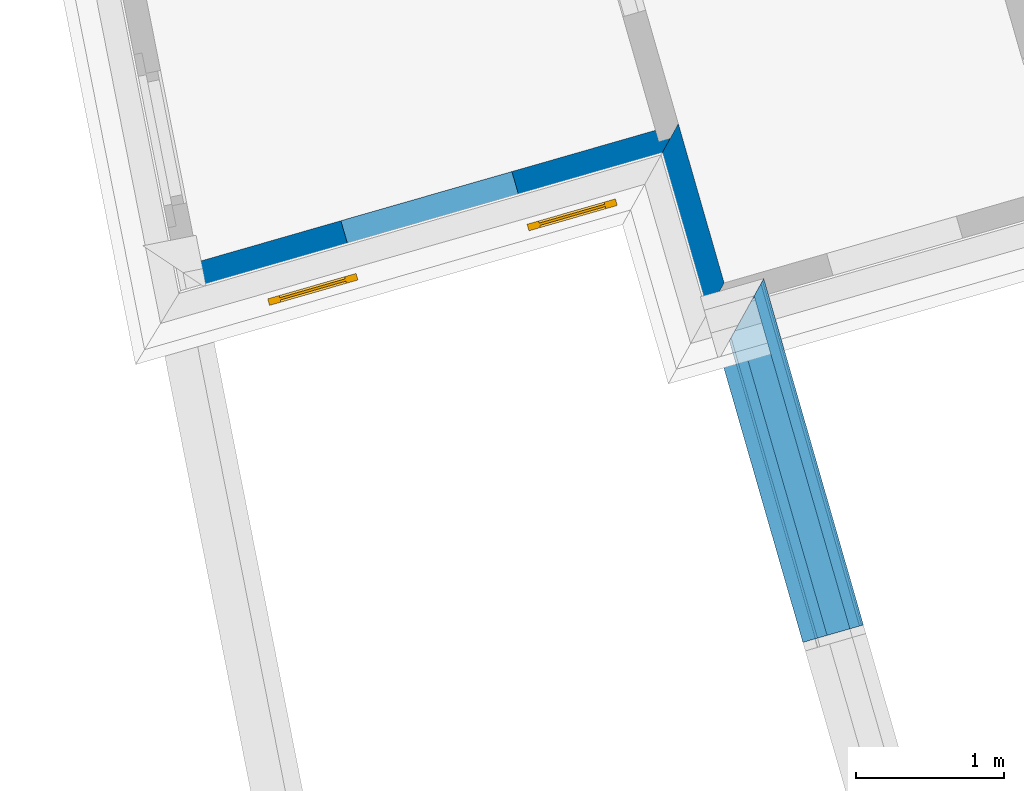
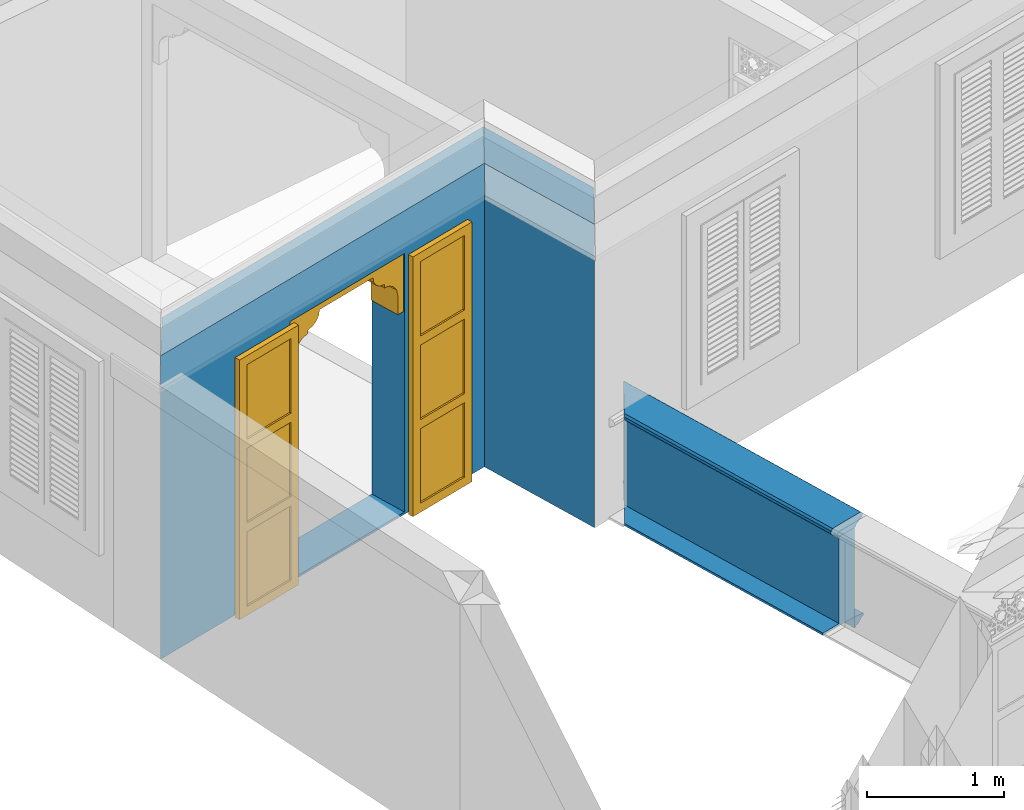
# One storey, part 14 of 22: 5 walls, 1 door, 1 opening.
"""IFC4 building model written with IfcOpenShell, lengths in metres."""

from ifc_helpers import new_model, si_unit, frame, origin, origin_with_axes, place, context, subcontext, project, spatial, polyline, outline, extrude, clip, halfspace, faceted_brep, source, transform, mapped, material, layer, layer_set, layer_usage, material_profile, profile_set, profile_usage, type_object, type_shapes, element, fill, save


model = new_model("IFC4")

# Units and contexts
model_context = context("Model", 3, world=origin_with_axes())
body_context = subcontext(model_context, "Body", "Model", "MODEL_VIEW")
ifc_project = project(units=[si_unit("PLANEANGLEUNIT", "RADIAN"), si_unit("MASSUNIT", "GRAM", prefix="KILO"), si_unit("FORCEUNIT", "NEWTON", prefix="KILO"), si_unit("LENGTHUNIT", "METRE"), si_unit("AREAUNIT", "SQUARE_METRE"), si_unit("VOLUMEUNIT", "CUBIC_METRE")], contexts=[model_context, model_context])

# Site, building, storey
site_placement = place(None, origin_with_axes())
site = spatial("IfcSite", under=ifc_project, at=site_placement, Name="Site plot-9", CompositionType="ELEMENT")
building_placement = place(None, origin_with_axes())
building = spatial("IfcBuilding", under=site, at=building_placement, Name="Building plot-9", CompositionType="ELEMENT")
storey_placement = place(None, frame((0.0, 0.0, 2.85), z_axis=(0.0, 0.0, 1.0), x_axis=(1.0, 0.0, 0.0)))
storey = spatial("IfcBuildingStorey", under=building, at=storey_placement, Name="plot-9 1", CompositionType="ELEMENT", Elevation=2.85)

# Wall, opening, door
ifc_material = material(Name="Masonry")
ifc_layer = layer(ifc_material, 0.33, ventilated=False)
ifc_layer_set = layer_set([ifc_layer], Name="exterior_0.08_0.25")
ifc_layer_usage = layer_usage(ifc_layer_set, "AXIS2", "POSITIVE", -0.25)
wall_type_1 = type_object("IfcWallType", Name="exterior_0.08_0.25", PredefinedType="SOLIDWALL", material=ifc_layer_set)
wall_1_placement = place(storey_placement, frame((-22.3179113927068, 3.82510829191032, 0.0), z_axis=(0.0, 0.0, 1.0), x_axis=(0.96108624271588, 0.276248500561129, 0.0)))
wall_1 = element("IfcWall", 1, at=wall_1_placement, inside=storey, type_object=wall_type_1, material=ifc_layer_usage, Name="exterior", context=body_context, shape_type="SweptSolid", body=[
    extrude(outline(polyline([(0.0871046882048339, 0.0800000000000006), (-0.272202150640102, -0.249999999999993), (3.12539536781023, -0.25), (3.45530111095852, 0.0799999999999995), (0.0871046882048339, 0.0800000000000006)])), origin_with_axes(), (0.0, 0.0, 1.0), 2.7),
])
opening_placement = place(wall_1_placement, frame((1.08766198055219, 0.0, 0.02)))
opening = element("IfcOpeningElement", 2, at=opening_placement, cuts=wall_1, Name="My Opening", ObjectType="Opening", context=body_context, shape_type="SweptSolid", body=[
    extrude(outline(polyline([(0.0, -0.27), (1.2, -0.27), (1.2, 1.1), (-1.33226762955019e-15, 1.1), (0.0, -0.27)])), origin_with_axes(), (0.0, 0.0, 1.0), 2.3),
])
door_type = type_object("IfcDoorType", Name="arch-1200x2300", OperationType="SINGLE_SWING_LEFT", PredefinedType="NOTDEFINED")
shared_shape = source(origin(), body_context, "Body", "Brep", [
    faceted_brep([(-0.08, -0.02, 0.08), (-0.08, -0.02, 0.0), (-0.54, -0.02, 0.0), (-0.54, -0.02, 0.08), (-0.62, -0.02, 0.0), (-0.62, -0.02, 0.08), (-0.54, -0.035, 0.08), (-0.08, -0.035, 0.08), (0.0, -0.02, 0.08), (0.0, -0.02, 0.0), (-0.08, -0.066, 0.0), (-0.54, -0.066, 0.0), (-0.62, -0.066, 0.0), (-0.62, -0.066, 0.08), (-0.54, -0.02, 0.743333), (-0.62, -0.02, 0.743333), (-0.54, -0.035, 0.743333), (-0.08, -0.035, 0.743333), (-0.08, -0.02, 0.743333), (0.0, -0.02, 0.743333), (0.0, -0.066, 0.08), (0.0, -0.066, 0.0), (-0.54, -0.066, 0.08), (-0.08, -0.066, 0.08), (-0.62, -0.066, 0.743333), (-0.54, -0.02, 0.823333), (-0.62, -0.02, 0.823333), (0.0, -0.066, 0.743333), (0.0, -0.02, 0.823333), (-0.08, -0.02, 0.823333), (-0.08, -0.051, 0.08), (-0.54, -0.051, 0.08), (-0.54, -0.066, 0.743333), (-0.62, -0.066, 0.823333), (-0.54, -0.02, 1.486667), (-0.62, -0.02, 1.486667), (0.0, -0.066, 0.823333), (-0.08, -0.066, 0.743333), (0.0, -0.02, 1.486667), (-0.08, -0.02, 1.486667), (-0.08, -0.051, 0.743333), (-0.54, -0.051, 0.743333), (-0.54, -0.066, 0.823333), (-0.62, -0.066, 1.486667), (-0.54, -0.035, 0.823333), (-0.08, -0.035, 0.823333), (-0.54, -0.035, 1.486667), (-0.54, -0.02, 1.566667), (-0.62, -0.02, 1.566667), (0.0, -0.066, 1.486667), (-0.08, -0.066, 0.823333), (-0.08, -0.035, 1.486667), (0.0, -0.02, 1.566667), (-0.08, -0.02, 1.566667), (-0.54, -0.066, 1.486667), (-0.62, -0.066, 1.566667), (-0.54, -0.02, 2.23), (-0.62, -0.02, 2.23), (0.0, -0.066, 1.566667), (-0.08, -0.066, 1.486667), (0.0, -0.02, 2.23), (-0.08, -0.02, 2.23), (-0.08, -0.051, 0.823333), (-0.54, -0.051, 0.823333), (-0.54, -0.051, 1.486667), (-0.54, -0.066, 1.566667), (-0.62, -0.066, 2.23), (-0.54, -0.035, 1.566667), (-0.08, -0.035, 1.566667), (-0.54, -0.035, 2.23), (-0.54, -0.02, 2.31), (-0.62, -0.02, 2.31), (0.0, -0.066, 2.23), (-0.08, -0.066, 1.566667), (-0.08, -0.051, 1.486667), (-0.08, -0.035, 2.23), (0.0, -0.02, 2.31), (-0.08, -0.02, 2.31), (-0.54, -0.066, 2.23), (-0.62, -0.066, 2.31), (-0.54, -0.066, 2.31), (0.0, -0.066, 2.31), (-0.08, -0.066, 2.23), (-0.08, -0.066, 2.31), (-0.08, -0.051, 1.566667), (-0.54, -0.051, 1.566667), (-0.54, -0.051, 2.23), (-0.08, -0.051, 2.23), (1.74, -0.02, 0.08), (1.74, -0.02, 0.0), (1.28, -0.02, 0.0), (1.28, -0.02, 0.08), (1.82, -0.02, 0.08), (1.82, -0.02, 0.0), (1.28, -0.035, 0.08), (1.74, -0.035, 0.08), (1.2, -0.02, 0.0), (1.2, -0.02, 0.08), (1.74, -0.066, 0.0), (1.28, -0.066, 0.0), (1.82, -0.066, 0.08), (1.82, -0.066, 0.0), (1.82, -0.02, 0.743333), (1.74, -0.02, 0.743333), (1.74, -0.035, 0.743333), (1.28, -0.035, 0.743333), (1.28, -0.02, 0.743333), (1.2, -0.02, 0.743333), (1.2, -0.066, 0.0), (1.2, -0.066, 0.08), (1.28, -0.066, 0.08), (1.74, -0.066, 0.08), (1.82, -0.066, 0.743333), (1.82, -0.02, 0.823333), (1.74, -0.02, 0.823333), (1.2, -0.066, 0.743333), (1.28, -0.02, 0.823333), (1.2, -0.02, 0.823333), (1.74, -0.051, 0.08), (1.28, -0.051, 0.08), (1.74, -0.066, 0.743333), (1.82, -0.066, 0.823333), (1.82, -0.02, 1.486667), (1.74, -0.02, 1.486667), (1.2, -0.066, 0.823333), (1.28, -0.066, 0.743333), (1.28, -0.02, 1.486667), (1.2, -0.02, 1.486667), (1.28, -0.051, 0.743333), (1.74, -0.051, 0.743333), (1.74, -0.066, 0.823333), (1.82, -0.066, 1.486667), (1.28, -0.035, 0.823333), (1.74, -0.035, 0.823333), (1.74, -0.035, 1.486667), (1.82, -0.02, 1.566667), (1.74, -0.02, 1.566667), (1.2, -0.066, 1.486667), (1.28, -0.066, 0.823333), (1.28, -0.035, 1.486667), (1.28, -0.02, 1.566667), (1.2, -0.02, 1.566667), (1.74, -0.066, 1.486667), (1.82, -0.066, 1.566667), (1.82, -0.02, 2.23), (1.74, -0.02, 2.23), (1.2, -0.066, 1.566667), (1.28, -0.066, 1.486667), (1.28, -0.02, 2.23), (1.2, -0.02, 2.23), (1.74, -0.051, 0.823333), (1.28, -0.051, 0.823333), (1.74, -0.051, 1.486667), (1.74, -0.066, 1.566667), (1.82, -0.066, 2.23), (1.28, -0.035, 1.566667), (1.74, -0.035, 1.566667), (1.74, -0.035, 2.23), (1.82, -0.02, 2.31), (1.74, -0.02, 2.31), (1.2, -0.066, 2.23), (1.28, -0.066, 1.566667), (1.28, -0.051, 1.486667), (1.28, -0.035, 2.23), (1.28, -0.02, 2.31), (1.2, -0.02, 2.31), (1.74, -0.066, 2.23), (1.82, -0.066, 2.31), (1.74, -0.066, 2.31), (1.2, -0.066, 2.31), (1.28, -0.066, 2.23), (1.28, -0.066, 2.31), (1.74, -0.051, 1.566667), (1.28, -0.051, 1.566667), (1.74, -0.051, 2.23), (1.28, -0.051, 2.23), (1.2, 0.03, 1.78), (1.2, 0.03, 1.95), (1.14, 0.03, 1.95), (1.14, 0.03, 1.78), (1.14, 0.3, 1.95), (1.14, 0.3, 1.78), (1.2, 0.03, 2.12), (1.129, 0.03, 2.004), (1.2, 0.3, 1.78), (1.2, 0.3, 1.95), (1.129, 0.3, 2.004), (1.099, 0.03, 2.049), (1.2, 0.3, 2.12), (1.099, 0.3, 2.049), (1.054, 0.03, 2.079), (1.2, 0.3, 2.29), (1.2, 0.03, 2.29), (1.054, 0.3, 2.079), (1.0, 0.03, 2.09), (1.0, 0.03, 2.12), (0.954, 0.03, 2.129), (0.88, 0.3, 2.29), (0.88, 0.03, 2.29), (1.0, 0.3, 2.12), (0.954, 0.3, 2.129), (1.0, 0.3, 2.09), (0.915, 0.03, 2.155), (0.889, 0.3, 2.194), (0.88, 0.3, 2.24), (0.88, 0.03, 2.24), (0.889, 0.03, 2.194), (0.915, 0.3, 2.155), (0.06, 0.03, 1.78), (0.06, 0.03, 1.95), (0.0, 0.03, 1.95), (0.0, 0.03, 1.78), (0.06, 0.3, 1.78), (0.06, 0.3, 1.95), (0.071, 0.03, 2.004), (0.0, 0.03, 2.12), (0.0, 0.3, 1.95), (0.0, 0.3, 1.78), (0.071, 0.3, 2.004), (0.101, 0.03, 2.049), (0.0, 0.3, 2.12), (0.101, 0.3, 2.049), (0.146, 0.03, 2.079), (0.0, 0.03, 2.29), (0.0, 0.3, 2.29), (0.146, 0.3, 2.079), (0.2, 0.03, 2.12), (0.2, 0.03, 2.09), (0.246, 0.03, 2.129), (0.32, 0.03, 2.29), (0.32, 0.3, 2.29), (0.246, 0.3, 2.129), (0.2, 0.3, 2.12), (0.2, 0.3, 2.09), (0.285, 0.03, 2.155), (0.32, 0.3, 2.24), (0.311, 0.3, 2.194), (0.311, 0.03, 2.194), (0.32, 0.03, 2.24), (0.285, 0.3, 2.155)], [[[0, 1, 2, 3]], [[4, 5, 3, 2]], [[0, 3, 6, 7]], [[1, 0, 8, 9]], [[2, 1, 10, 11]], [[5, 4, 12, 13]], [[14, 3, 5, 15]], [[4, 2, 11, 12]], [[3, 14, 16, 6]], [[6, 16, 17, 7]], [[18, 0, 7, 17]], [[0, 18, 19, 8]], [[9, 8, 20, 21]], [[1, 9, 21, 10]], [[22, 11, 10, 23]], [[13, 12, 11, 22]], [[15, 5, 13, 24]], [[25, 14, 15, 26]], [[14, 18, 17, 16]], [[8, 19, 27, 20]], [[28, 19, 18, 29]], [[23, 10, 21, 20]], [[22, 23, 30, 31]], [[22, 32, 24, 13]], [[26, 15, 24, 33]], [[29, 18, 14, 25]], [[34, 25, 26, 35]], [[19, 28, 36, 27]], [[20, 27, 37, 23]], [[38, 28, 29, 39]], [[23, 37, 40, 30]], [[41, 31, 30, 40]], [[32, 22, 31, 41]], [[32, 42, 33, 24]], [[35, 26, 33, 43]], [[29, 25, 44, 45]], [[25, 34, 46, 44]], [[47, 34, 35, 48]], [[28, 38, 49, 36]], [[27, 36, 50, 37]], [[39, 29, 45, 51]], [[52, 38, 39, 53]], [[37, 32, 41, 40]], [[37, 50, 42, 32]], [[42, 54, 43, 33]], [[48, 35, 43, 55]], [[44, 46, 51, 45]], [[34, 39, 51, 46]], [[34, 47, 53, 39]], [[56, 47, 48, 57]], [[38, 52, 58, 49]], [[36, 49, 59, 50]], [[60, 52, 53, 61]], [[42, 50, 62, 63]], [[54, 42, 63, 64]], [[54, 65, 55, 43]], [[57, 48, 55, 66]], [[53, 47, 67, 68]], [[47, 56, 69, 67]], [[70, 56, 57, 71]], [[52, 60, 72, 58]], [[49, 58, 73, 59]], [[50, 59, 74, 62]], [[61, 53, 68, 75]], [[76, 60, 61, 77]], [[64, 63, 62, 74]], [[59, 54, 64, 74]], [[65, 54, 59, 73]], [[65, 78, 66, 55]], [[71, 57, 66, 79]], [[67, 69, 75, 68]], [[56, 61, 75, 69]], [[77, 61, 56, 70]], [[70, 71, 79, 80]], [[60, 76, 81, 72]], [[58, 72, 82, 73]], [[76, 77, 83, 81]], [[65, 73, 84, 85]], [[78, 65, 85, 86]], [[78, 80, 79, 66]], [[77, 70, 80, 83]], [[72, 81, 83, 82]], [[73, 82, 87, 84]], [[86, 85, 84, 87]], [[82, 78, 86, 87]], [[82, 83, 80, 78]], [[88, 89, 90, 91]], [[89, 88, 92, 93]], [[94, 95, 88, 91]], [[96, 97, 91, 90]], [[98, 99, 90, 89]], [[100, 101, 93, 92]], [[102, 92, 88, 103]], [[101, 98, 89, 93]], [[95, 104, 103, 88]], [[94, 105, 104, 95]], [[105, 94, 91, 106]], [[97, 107, 106, 91]], [[108, 109, 97, 96]], [[99, 108, 96, 90]], [[110, 99, 98, 111]], [[111, 98, 101, 100]], [[112, 100, 92, 102]], [[113, 102, 103, 114]], [[104, 105, 106, 103]], [[109, 115, 107, 97]], [[116, 106, 107, 117]], [[109, 108, 99, 110]], [[118, 119, 110, 111]], [[100, 112, 120, 111]], [[121, 112, 102, 113]], [[114, 103, 106, 116]], [[122, 113, 114, 123]], [[115, 124, 117, 107]], [[110, 125, 115, 109]], [[126, 116, 117, 127]], [[119, 128, 125, 110]], [[128, 119, 118, 129]], [[129, 118, 111, 120]], [[112, 121, 130, 120]], [[131, 121, 113, 122]], [[132, 133, 114, 116]], [[133, 134, 123, 114]], [[135, 122, 123, 136]], [[124, 137, 127, 117]], [[125, 138, 124, 115]], [[139, 132, 116, 126]], [[140, 126, 127, 141]], [[128, 129, 120, 125]], [[120, 130, 138, 125]], [[121, 131, 142, 130]], [[143, 131, 122, 135]], [[132, 139, 134, 133]], [[134, 139, 126, 123]], [[126, 140, 136, 123]], [[144, 135, 136, 145]], [[137, 146, 141, 127]], [[138, 147, 137, 124]], [[148, 140, 141, 149]], [[150, 151, 138, 130]], [[152, 150, 130, 142]], [[131, 143, 153, 142]], [[154, 143, 135, 144]], [[155, 156, 136, 140]], [[156, 157, 145, 136]], [[158, 144, 145, 159]], [[146, 160, 149, 141]], [[147, 161, 146, 137]], [[151, 162, 147, 138]], [[163, 155, 140, 148]], [[164, 148, 149, 165]], [[162, 151, 150, 152]], [[162, 152, 142, 147]], [[161, 147, 142, 153]], [[143, 154, 166, 153]], [[167, 154, 144, 158]], [[155, 163, 157, 156]], [[157, 163, 148, 145]], [[159, 145, 148, 164]], [[168, 167, 158, 159]], [[160, 169, 165, 149]], [[161, 170, 160, 146]], [[169, 171, 164, 165]], [[172, 173, 161, 153]], [[174, 172, 153, 166]], [[154, 167, 168, 166]], [[171, 168, 159, 164]], [[170, 171, 169, 160]], [[173, 175, 170, 161]], [[175, 173, 172, 174]], [[175, 174, 166, 170]], [[166, 168, 171, 170]], [[176, 177, 178, 179]], [[180, 181, 179, 178]], [[177, 182, 183, 178]], [[177, 176, 184, 185]], [[181, 184, 176, 179]], [[181, 180, 185, 184]], [[186, 180, 178, 183]], [[182, 187, 183]], [[182, 177, 185, 188]], [[180, 186, 188, 185]], [[189, 186, 183, 187]], [[182, 190, 187]], [[188, 191, 192, 182]], [[188, 186, 189]], [[193, 189, 187, 190]], [[194, 190, 182, 195]], [[182, 192, 196, 195]], [[192, 191, 197, 198]], [[199, 200, 191, 188]], [[188, 189, 193]], [[201, 193, 190, 194]], [[199, 201, 194, 195]], [[200, 199, 195, 196]], [[192, 202, 196]], [[191, 203, 204, 197]], [[192, 198, 205, 206]], [[207, 191, 200]], [[199, 188, 193, 201]], [[207, 200, 196, 202]], [[192, 206, 202]], [[204, 203, 206, 205]], [[203, 191, 207]], [[203, 207, 202, 206]], [[208, 209, 210, 211]], [[209, 208, 212, 213]], [[209, 214, 215, 210]], [[211, 210, 216, 217]], [[208, 211, 217, 212]], [[217, 216, 213, 212]], [[214, 209, 213, 218]], [[214, 219, 215]], [[220, 216, 210, 215]], [[216, 220, 218, 213]], [[219, 214, 218, 221]], [[219, 222, 215]], [[215, 223, 224, 220]], [[221, 218, 220]], [[222, 219, 221, 225]], [[226, 215, 222, 227]], [[226, 228, 223, 215]], [[229, 230, 224, 223]], [[220, 224, 231, 232]], [[225, 221, 220]], [[227, 222, 225, 233]], [[226, 227, 233, 232]], [[228, 226, 232, 231]], [[228, 234, 223]], [[230, 235, 236, 224]], [[237, 238, 229, 223]], [[231, 224, 239]], [[233, 225, 220, 232]], [[234, 228, 231, 239]], [[234, 237, 223]], [[238, 237, 236, 235]], [[239, 224, 236]], [[237, 234, 239, 236]], [[238, 235, 204, 205]], [[235, 230, 197, 204]], [[229, 238, 205, 198]], [[230, 229, 198, 197]]]),
])
type_shapes(door_type, [shared_shape])
door_placement = place(storey_placement, frame((-21.1979873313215, 3.86607999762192, 0.02), z_axis=(0.0, 0.0, 1.0), x_axis=(1.15330349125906, 0.331498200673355, 0.0)))
door = element("IfcDoor", 3, at=door_placement, inside=storey, type_object=door_type, Name="circulation sahn door", OverallHeight=2.3, OverallWidth=1.2, context=body_context, shape_type="MappedRepresentation", body=[
    mapped(shared_shape, transform((0.0, 0.0, 0.0), scale=1.0)),
])
fill(opening, door)

# Walls
wall_2_placement = place(storey_placement, frame((-19.0739339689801, 4.75753647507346, 0.0), z_axis=(0.0, 0.0, 1.0), x_axis=(0.276523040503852, -0.961007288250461, 0.0)))
element("IfcWall", 4, at=wall_2_placement, inside=storey, type_object=wall_type_1, material=ifc_layer_usage, Name="exterior", context=body_context, shape_type="SweptSolid", body=[
    extrude(outline(polyline([(-0.0799771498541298, 0.0799999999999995), (0.249928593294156, -0.250000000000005), (1.36750471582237, -0.250000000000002), (1.03750471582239, 0.0799999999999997), (-0.0799771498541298, 0.0799999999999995)])), origin_with_axes(), (0.0, 0.0, 1.0), 2.7),
])
ifc_material_profile_1 = material_profile(None, outline(polyline([(0.25, 0.0), (0.25, 0.795), (0.09, 0.795), (0.09, 0.02), (-0.08, 0.02), (-0.08, 0.0), (0.25, 0.0)])))
ifc_profile_set_1 = profile_set([ifc_material_profile_1])
ifc_profile_usage_1 = profile_usage(ifc_profile_set_1)
wall_type_2 = type_object("IfcWallType", Name="parapet internal_0", PredefinedType="PARAPET", material=ifc_profile_set_1)
wall_3_placement = place(storey_placement, frame((-18.9557190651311, 4.34670132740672, 0.0), z_axis=(0.276523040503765, -0.961007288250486, 0.0), x_axis=(0.961007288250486, 0.276523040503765, 0.0)))
element("IfcWall", 5, at=wall_3_placement, inside=storey, type_object=wall_type_2, material=ifc_profile_usage_1, Name="parapet internal_0", context=body_context, shape_type="Clipping", body=[
    clip(clip(extrude(outline(polyline([(0.25, 0.0), (0.25, 0.795), (0.09, 0.795), (0.09, 0.02), (-0.08, 0.02), (-0.08, 0.0), (0.25, 0.0)])), origin_with_axes(), (0.0, 0.0, 1.0), 4.08575160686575), halfspace(frame((0.0, 0.0, 3.08575160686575), z_axis=(1.86234191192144e-13, 0.0, -1.0), x_axis=(0.0, 1.0, 0.0)), True)), halfspace(frame((0.0, 0.0, 1.0), z_axis=(-0.707106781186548, 0.0, -0.707106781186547), x_axis=(0.0, 1.0, 0.0)), False)),
])
ifc_material_profile_2 = material_profile(None, outline(polyline([(0.265, 0.795), (0.268, 0.807), (0.274, 0.816), (0.283, 0.822), (0.295, 0.825), (0.295, 0.84), (0.305, 0.84), (0.317, 0.842), (0.326, 0.849), (0.333, 0.858), (0.335, 0.87), (0.333, 0.882), (0.326, 0.891), (0.317, 0.898), (0.305, 0.9), (0.035, 0.9), (0.023, 0.898), (0.014, 0.891), (0.007, 0.882), (0.005, 0.87), (0.007, 0.858), (0.014, 0.849), (0.023, 0.842), (0.035, 0.84), (0.045, 0.84), (0.045, 0.825), (0.057, 0.822), (0.066, 0.816), (0.072, 0.807), (0.075, 0.795), (0.265, 0.795)])))
ifc_profile_set_2 = profile_set([ifc_material_profile_2])
ifc_profile_usage_2 = profile_usage(ifc_profile_set_2)
wall_type_3 = type_object("IfcWallType", Name="parapet internal_1", PredefinedType="PARAPET", material=ifc_profile_set_2)
wall_4_placement = place(storey_placement, frame((-18.9557190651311, 4.34670132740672, 0.0), z_axis=(0.276523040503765, -0.961007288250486, 0.0), x_axis=(0.961007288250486, 0.276523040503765, 0.0)))
element("IfcWall", 6, at=wall_4_placement, inside=storey, type_object=wall_type_3, material=ifc_profile_usage_2, Name="parapet internal_1", context=body_context, shape_type="Clipping", body=[
    clip(clip(extrude(outline(polyline([(0.265, 0.795), (0.268, 0.807), (0.274, 0.816), (0.283, 0.822), (0.295, 0.825), (0.295, 0.84), (0.305, 0.84), (0.317, 0.842), (0.326, 0.849), (0.333, 0.858), (0.335, 0.87), (0.333, 0.882), (0.326, 0.891), (0.317, 0.898), (0.305, 0.9), (0.035, 0.9), (0.023, 0.898), (0.014, 0.891), (0.007, 0.882), (0.005, 0.87), (0.007, 0.858), (0.014, 0.849), (0.023, 0.842), (0.035, 0.84), (0.045, 0.84), (0.045, 0.825), (0.057, 0.822), (0.066, 0.816), (0.072, 0.807), (0.075, 0.795), (0.265, 0.795)])), origin_with_axes(), (0.0, 0.0, 1.0), 4.08575160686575), halfspace(frame((0.0, 0.0, 3.08575160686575), z_axis=(1.86234191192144e-13, 0.0, -1.0), x_axis=(0.0, 1.0, 0.0)), True)), halfspace(frame((0.0, 0.0, 1.0), z_axis=(-0.707106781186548, 0.0, -0.707106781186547), x_axis=(0.0, 1.0, 0.0)), False)),
])
ifc_material_profile_3 = material_profile(None, outline(polyline([(0.25, -0.1), (0.265, -0.1), (0.265, -0.085), (0.278, -0.084), (0.289, -0.081), (0.301, -0.074), (0.309, -0.065), (0.315, -0.055), (0.324, -0.044), (0.334, -0.038), (0.345, -0.035), (0.345, -0.015), (0.25, 0.0), (0.25, -0.1)])))
ifc_profile_set_3 = profile_set([ifc_material_profile_3])
ifc_profile_usage_3 = profile_usage(ifc_profile_set_3)
wall_type_4 = type_object("IfcWallType", Name="parapet internal_2", PredefinedType="PARAPET", material=ifc_profile_set_3)
wall_5_placement = place(storey_placement, frame((-18.9557190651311, 4.34670132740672, 0.0), z_axis=(0.276523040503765, -0.961007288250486, 0.0), x_axis=(0.961007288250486, 0.276523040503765, 0.0)))
element("IfcWall", 7, at=wall_5_placement, inside=storey, type_object=wall_type_4, material=ifc_profile_usage_3, Name="parapet internal_2", context=body_context, shape_type="Clipping", body=[
    clip(clip(extrude(outline(polyline([(0.25, -0.1), (0.265, -0.1), (0.265, -0.085), (0.278, -0.084), (0.289, -0.081), (0.301, -0.074), (0.309, -0.065), (0.315, -0.055), (0.324, -0.044), (0.334, -0.038), (0.345, -0.035), (0.345, -0.015), (0.25, 0.0), (0.25, -0.1)])), origin_with_axes(), (0.0, 0.0, 1.0), 4.08575160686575), halfspace(frame((0.0, 0.0, 3.08575160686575), z_axis=(1.86234191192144e-13, 0.0, -1.0), x_axis=(0.0, 1.0, 0.0)), True)), halfspace(frame((0.0, 0.0, 1.0), z_axis=(-0.707106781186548, 0.0, -0.707106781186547), x_axis=(0.0, 1.0, 0.0)), False)),
])

save(model, "model.ifc")
